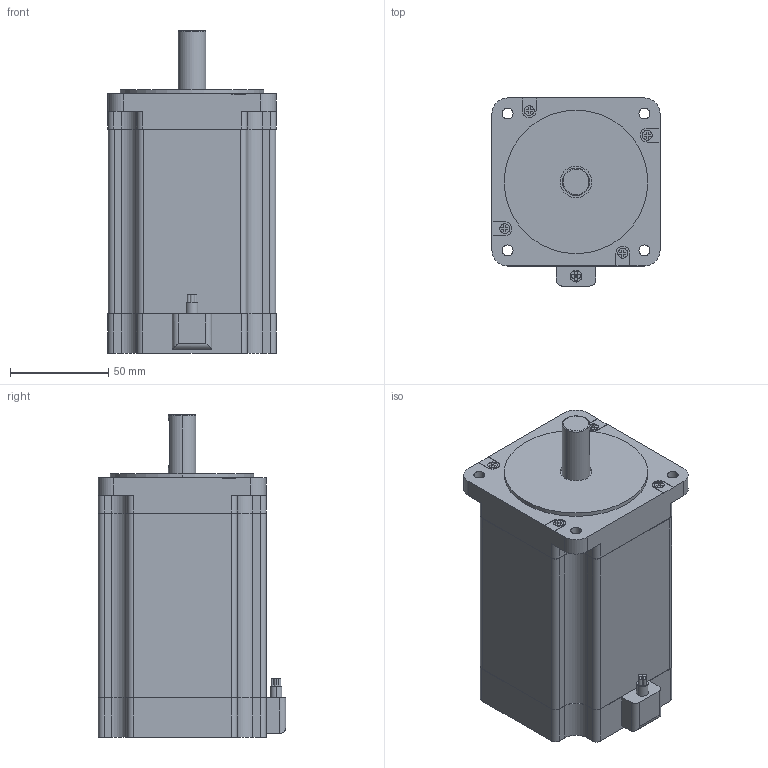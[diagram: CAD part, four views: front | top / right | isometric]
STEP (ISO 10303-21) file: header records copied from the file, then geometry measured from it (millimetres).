
FILE_DESCRIPTION (( 'STEP AP203' ), '1' );
FILE_NAME ('STP-86D5007.STEP', '2019-10-25T03:55:12', ( 'China' ), ( 'Home' ), 'SwSTEP 2.0', 'SolidWorks 2016', '' );
FILE_SCHEMA (( 'CONFIG_CONTROL_DESIGN' ));
Length unit declared in the file: millimetre
Products named in the file (1): STP-86D5007
Bounding box: 85.5 x 95.5 x 164 mm (x, y, z)
Volume: 874073.5 mm3; surface area: 60262.3 mm2
Topology: 1 solids, 1 shells, 215 faces, 575 edges, 382 vertices
Faces by surface type: plane 128, cylinder 85, bspline 2
Entity records: 6894 total; most frequent: CARTESIAN_POINT 1278, DIRECTION 1161, ORIENTED_EDGE 1150, EDGE_CURVE 575, LINE 403, VECTOR 403, VERTEX_POINT 382, AXIS2_PLACEMENT_3D 379
